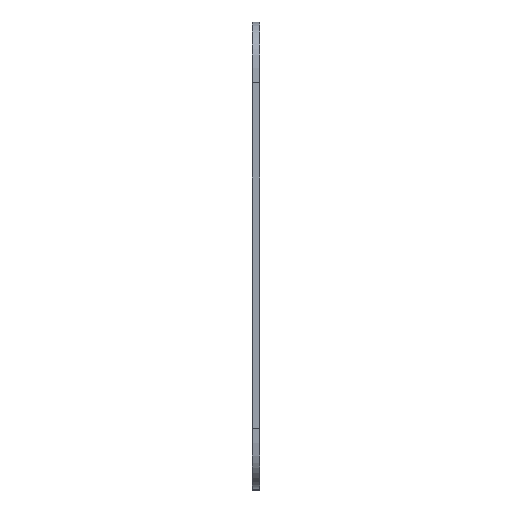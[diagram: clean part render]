
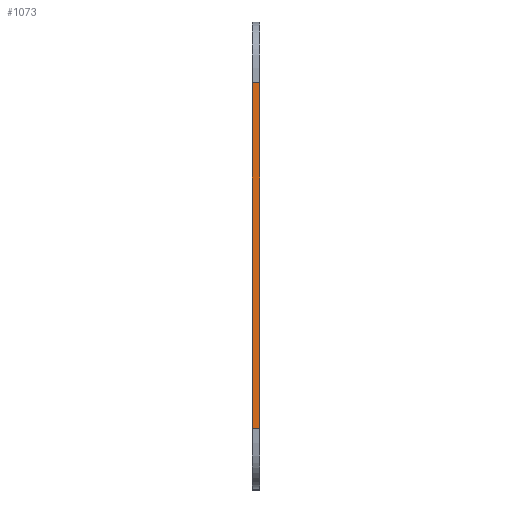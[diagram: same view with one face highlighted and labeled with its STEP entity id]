
A CAD part, top view. The second image highlights one B-rep face of the part: STEP entity #1073.
In plain terms, the highlighted planar face has unit normal (0, 0, 1).
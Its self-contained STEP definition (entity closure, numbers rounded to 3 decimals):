
#68=PLANE('',#1190);
#119=FACE_OUTER_BOUND('',#184,.T.);
#184=EDGE_LOOP('',(#925,#926,#927,#928));
#237=LINE('',#1756,#328);
#256=LINE('',#1818,#347);
#287=LINE('',#1986,#378);
#288=LINE('',#1987,#379);
#328=VECTOR('',#1327,10.);
#347=VECTOR('',#1392,10.);
#378=VECTOR('',#1477,10.);
#379=VECTOR('',#1478,10.);
#487=VERTEX_POINT('',#1722);
#488=VERTEX_POINT('',#1739);
#508=VERTEX_POINT('',#1817);
#538=VERTEX_POINT('',#1985);
#607=EDGE_CURVE('',#487,#488,#237,.T.);
#638=EDGE_CURVE('',#508,#487,#256,.T.);
#685=EDGE_CURVE('',#538,#488,#287,.T.);
#686=EDGE_CURVE('',#508,#538,#288,.T.);
#925=ORIENTED_EDGE('',*,*,#638,.T.);
#926=ORIENTED_EDGE('',*,*,#607,.T.);
#927=ORIENTED_EDGE('',*,*,#685,.F.);
#928=ORIENTED_EDGE('',*,*,#686,.F.);
#1073=ADVANCED_FACE('',(#119),#68,.T.);
#1190=AXIS2_PLACEMENT_3D('',#1984,#1475,#1476);
#1327=DIRECTION('',(-1.,0.,0.));
#1392=DIRECTION('',(0.,1.,0.));
#1475=DIRECTION('center_axis',(0.,0.,
1.));
#1476=DIRECTION('ref_axis',(0.,1.,0.));
#1477=DIRECTION('',(0.,1.,0.));
#1478=DIRECTION('',(-1.,0.,0.));
#1722=CARTESIAN_POINT('',(-180.,65.,114.5));
#1739=CARTESIAN_POINT('',(-183.,65.,114.5));
#1756=CARTESIAN_POINT('',(-180.,65.,114.5));
#1817=CARTESIAN_POINT('',(-180.,-65.,114.5));
#1818=CARTESIAN_POINT('',(-180.,-65.,114.5));
#1984=CARTESIAN_POINT('Origin',(-180.,-65.,114.5));
#1985=CARTESIAN_POINT('',(-183.,-65.,114.5));
#1986=CARTESIAN_POINT('',(-183.,-65.,114.5));
#1987=CARTESIAN_POINT('',(-180.,-65.,114.5));
